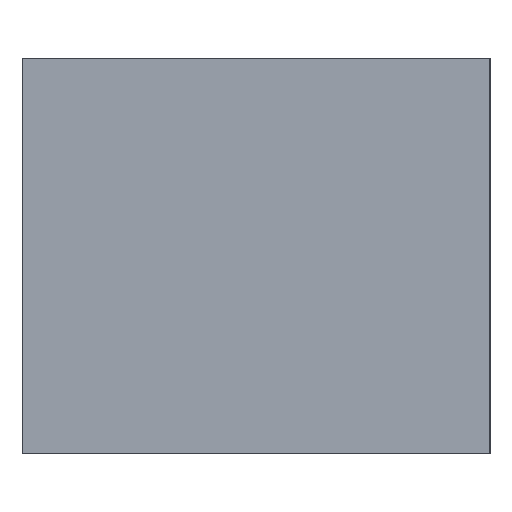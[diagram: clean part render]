
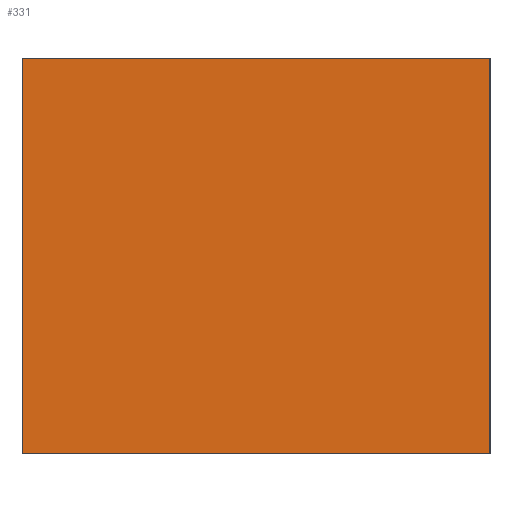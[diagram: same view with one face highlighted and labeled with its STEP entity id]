
A CAD part, left-side view. The second image highlights one B-rep face of the part: STEP entity #331.
In plain terms, the highlighted planar face has unit normal (-1, 0, 0).
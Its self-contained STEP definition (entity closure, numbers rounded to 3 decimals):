
#22 = VERTEX_POINT('',#23);
#23 = CARTESIAN_POINT('',(-205.,-178.,361.));
#32 = PLANE('',#33);
#33 = AXIS2_PLACEMENT_3D('',#34,#35,#36);
#34 = CARTESIAN_POINT('',(-205.,-178.,361.));
#35 = DIRECTION('',(0.,0.,-1.));
#36 = DIRECTION('',(1.,0.,0.));
#44 = PLANE('',#45);
#45 = AXIS2_PLACEMENT_3D('',#46,#47,#48);
#46 = CARTESIAN_POINT('',(-205.,-178.,361.));
#47 = DIRECTION('',(0.,1.,0.));
#48 = DIRECTION('',(1.,0.,0.));
#56 = EDGE_CURVE('',#22,#57,#59,.T.);
#57 = VERTEX_POINT('',#58);
#58 = CARTESIAN_POINT('',(-205.,-152.,361.));
#59 = SURFACE_CURVE('',#60,(#64,#71),.PCURVE_S1.);
#60 = LINE('',#61,#62);
#61 = CARTESIAN_POINT('',(-205.,-178.,361.));
#62 = VECTOR('',#63,1.);
#63 = DIRECTION('',(0.,1.,0.));
#64 = PCURVE('',#32,#65);
#65 = DEFINITIONAL_REPRESENTATION('',(#66),#70);
#66 = LINE('',#67,#68);
#67 = CARTESIAN_POINT('',(0.,0.));
#68 = VECTOR('',#69,1.);
#69 = DIRECTION('',(0.,-1.));
#70 = ( GEOMETRIC_REPRESENTATION_CONTEXT(2) 
PARAMETRIC_REPRESENTATION_CONTEXT() REPRESENTATION_CONTEXT('2D SPACE',''
  ) );
#71 = PCURVE('',#72,#77);
#72 = PLANE('',#73);
#73 = AXIS2_PLACEMENT_3D('',#74,#75,#76);
#74 = CARTESIAN_POINT('',(-205.,-178.,361.));
#75 = DIRECTION('',(1.,0.,0.));
#76 = DIRECTION('',(0.,0.,-1.));
#77 = DEFINITIONAL_REPRESENTATION('',(#78),#82);
#78 = LINE('',#79,#80);
#79 = CARTESIAN_POINT('',(0.,0.));
#80 = VECTOR('',#81,1.);
#81 = DIRECTION('',(0.,1.));
#82 = ( GEOMETRIC_REPRESENTATION_CONTEXT(2) 
PARAMETRIC_REPRESENTATION_CONTEXT() REPRESENTATION_CONTEXT('2D SPACE',''
  ) );
#100 = PLANE('',#101);
#101 = AXIS2_PLACEMENT_3D('',#102,#103,#104);
#102 = CARTESIAN_POINT('',(-205.,-152.,361.));
#103 = DIRECTION('',(0.,1.,0.));
#104 = DIRECTION('',(1.,0.,0.));
#142 = VERTEX_POINT('',#143);
#143 = CARTESIAN_POINT('',(-205.,-178.,339.));
#152 = PLANE('',#153);
#153 = AXIS2_PLACEMENT_3D('',#154,#155,#156);
#154 = CARTESIAN_POINT('',(-205.,-178.,339.));
#155 = DIRECTION('',(0.,0.,-1.));
#156 = DIRECTION('',(1.,0.,0.));
#171 = EDGE_CURVE('',#142,#172,#174,.T.);
#172 = VERTEX_POINT('',#173);
#173 = CARTESIAN_POINT('',(-205.,-152.,339.));
#174 = SURFACE_CURVE('',#175,(#179,#186),.PCURVE_S1.);
#175 = LINE('',#176,#177);
#176 = CARTESIAN_POINT('',(-205.,-178.,339.));
#177 = VECTOR('',#178,1.);
#178 = DIRECTION('',(0.,1.,0.));
#179 = PCURVE('',#152,#180);
#180 = DEFINITIONAL_REPRESENTATION('',(#181),#185);
#181 = LINE('',#182,#183);
#182 = CARTESIAN_POINT('',(0.,0.));
#183 = VECTOR('',#184,1.);
#184 = DIRECTION('',(0.,-1.));
#185 = ( GEOMETRIC_REPRESENTATION_CONTEXT(2) 
PARAMETRIC_REPRESENTATION_CONTEXT() REPRESENTATION_CONTEXT('2D SPACE',''
  ) );
#186 = PCURVE('',#72,#187);
#187 = DEFINITIONAL_REPRESENTATION('',(#188),#192);
#188 = LINE('',#189,#190);
#189 = CARTESIAN_POINT('',(22.,0.));
#190 = VECTOR('',#191,1.);
#191 = DIRECTION('',(0.,1.));
#192 = ( GEOMETRIC_REPRESENTATION_CONTEXT(2) 
PARAMETRIC_REPRESENTATION_CONTEXT() REPRESENTATION_CONTEXT('2D SPACE',''
  ) );
#241 = EDGE_CURVE('',#22,#142,#242,.T.);
#242 = SURFACE_CURVE('',#243,(#247,#254),.PCURVE_S1.);
#243 = LINE('',#244,#245);
#244 = CARTESIAN_POINT('',(-205.,-178.,361.));
#245 = VECTOR('',#246,1.);
#246 = DIRECTION('',(0.,0.,-1.));
#247 = PCURVE('',#44,#248);
#248 = DEFINITIONAL_REPRESENTATION('',(#249),#253);
#249 = LINE('',#250,#251);
#250 = CARTESIAN_POINT('',(0.,0.));
#251 = VECTOR('',#252,1.);
#252 = DIRECTION('',(0.,1.));
#253 = ( GEOMETRIC_REPRESENTATION_CONTEXT(2) 
PARAMETRIC_REPRESENTATION_CONTEXT() REPRESENTATION_CONTEXT('2D SPACE',''
  ) );
#254 = PCURVE('',#72,#255);
#255 = DEFINITIONAL_REPRESENTATION('',(#256),#260);
#256 = LINE('',#257,#258);
#257 = CARTESIAN_POINT('',(0.,0.));
#258 = VECTOR('',#259,1.);
#259 = DIRECTION('',(1.,0.));
#260 = ( GEOMETRIC_REPRESENTATION_CONTEXT(2) 
PARAMETRIC_REPRESENTATION_CONTEXT() REPRESENTATION_CONTEXT('2D SPACE',''
  ) );
#288 = EDGE_CURVE('',#57,#172,#289,.T.);
#289 = SURFACE_CURVE('',#290,(#294,#301),.PCURVE_S1.);
#290 = LINE('',#291,#292);
#291 = CARTESIAN_POINT('',(-205.,-152.,361.));
#292 = VECTOR('',#293,1.);
#293 = DIRECTION('',(0.,0.,-1.));
#294 = PCURVE('',#100,#295);
#295 = DEFINITIONAL_REPRESENTATION('',(#296),#300);
#296 = LINE('',#297,#298);
#297 = CARTESIAN_POINT('',(0.,0.));
#298 = VECTOR('',#299,1.);
#299 = DIRECTION('',(0.,1.));
#300 = ( GEOMETRIC_REPRESENTATION_CONTEXT(2) 
PARAMETRIC_REPRESENTATION_CONTEXT() REPRESENTATION_CONTEXT('2D SPACE',''
  ) );
#301 = PCURVE('',#72,#302);
#302 = DEFINITIONAL_REPRESENTATION('',(#303),#307);
#303 = LINE('',#304,#305);
#304 = CARTESIAN_POINT('',(0.,26.));
#305 = VECTOR('',#306,1.);
#306 = DIRECTION('',(1.,0.));
#307 = ( GEOMETRIC_REPRESENTATION_CONTEXT(2) 
PARAMETRIC_REPRESENTATION_CONTEXT() REPRESENTATION_CONTEXT('2D SPACE',''
  ) );
#331 = ADVANCED_FACE('',(#332),#72,.F.);
#332 = FACE_BOUND('',#333,.F.);
#333 = EDGE_LOOP('',(#334,#335,#336,#337));
#334 = ORIENTED_EDGE('',*,*,#56,.F.);
#335 = ORIENTED_EDGE('',*,*,#241,.T.);
#336 = ORIENTED_EDGE('',*,*,#171,.T.);
#337 = ORIENTED_EDGE('',*,*,#288,.F.);
